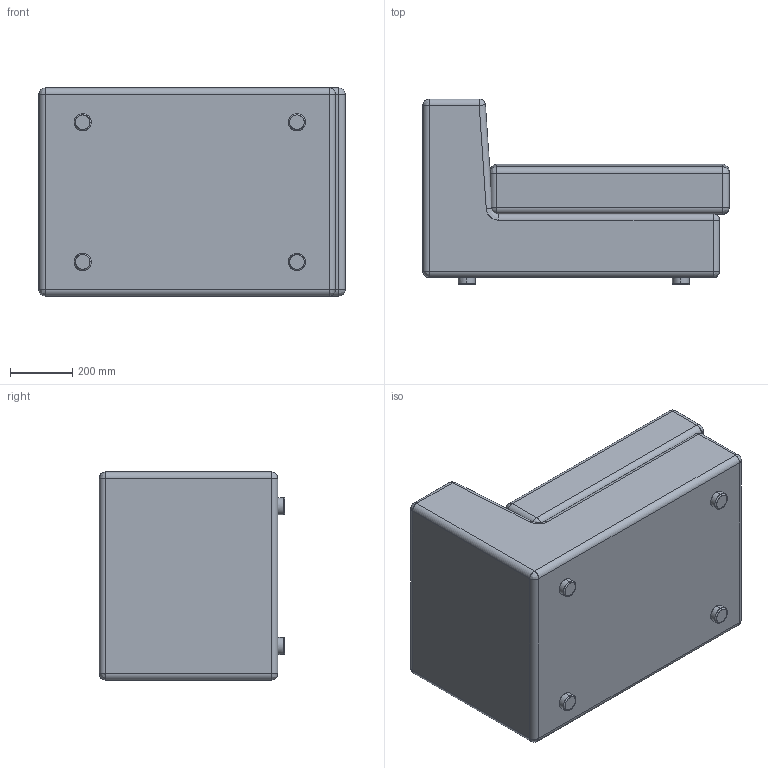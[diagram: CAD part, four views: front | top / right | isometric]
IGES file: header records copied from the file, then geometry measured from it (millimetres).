
Start section: SolidWorks IGES file using NURBS representation for surfaces
Global section: file name: G:\VICCARBE\PRODUCTOS\18-BERRY\04-MODELADOS (PLANOS)\SOLIDWORKS\ELEMENTOS\VICCARBE_Berry_B1.IGS; native system: SolidWorks 2009; preprocessor: SolidWorks 2009; author: RUBEN; date: 110902.094559; units: millimetre
Bounding box: 985.97 x 598 x 670 mm (x, y, z)
Surface area: 3952422.9 mm2 (no closed solid volume)
Topology: 0 solids, 0 shells, 88 faces, 858 edges, 840 vertices
Faces by surface type: bspline 88
